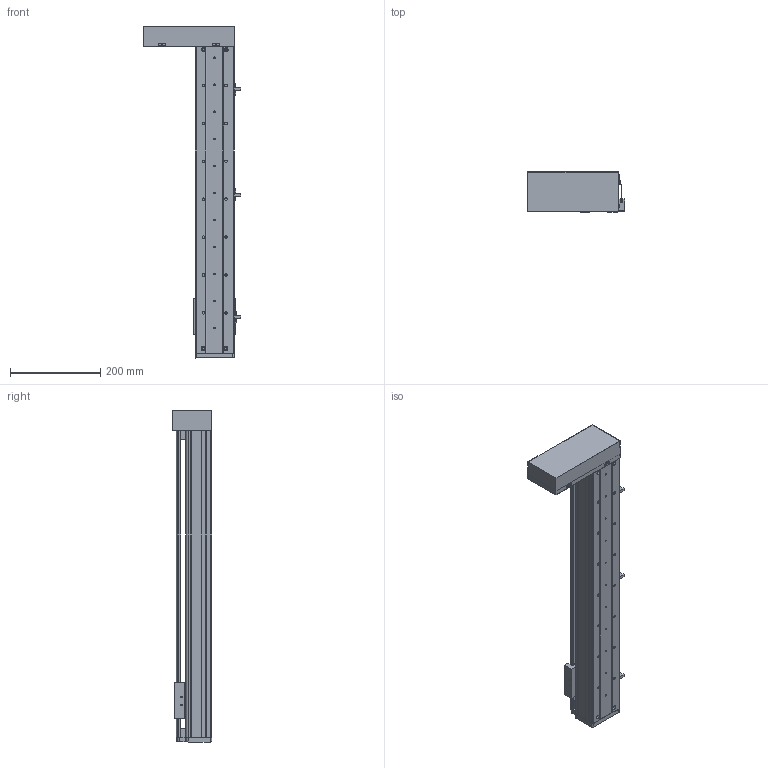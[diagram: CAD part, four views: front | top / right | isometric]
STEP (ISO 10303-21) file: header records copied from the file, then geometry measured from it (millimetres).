
FILE_DESCRIPTION (( 'STEP AP214' ), '1' );
FILE_NAME ('CF86-C-500-FWL.STEP', '2020-01-15T08:30:38', ( '微软用户' ), ( '微软中国' ), 'SwSTEP 2.0', 'SolidWorks 2016', '' );
FILE_SCHEMA (( 'AUTOMOTIVE_DESIGN' ));
Length unit declared in the file: millimetre
Products named in the file (13): CF86左折弯电机安装板; CF86賑輸; 02 86盓傅釱; 01 86嘐隅釱; EGW15CA賑輸; EGR15-500; 86臏倰第-500; 86裔啣-500; 86耜啣; CF86-C-500-FWL; 嫖萇羲壽; 75-86-95癹弇羲壽覜茼え; CF86肮祭湍欶酘殏
Assembly tree (14 placements, depth 2):
  CF86-C-500-FWL
    86耜啣
    86裔啣-500
    86臏倰第-500
    EGR15-500
    EGW15CA賑輸
    01 86嘐隅釱
    02 86盓傅釱
    CF86賑輸
    CF86左折弯电机安装板
    CF86肮祭湍欶酘殏
    75-86-95癹弇羲壽覜茼え
    嫖萇羲壽  x3
Bounding box: 215.22 x 88 x 736 mm (x, y, z)
Volume: 1856838.6 mm3; surface area: 735925.1 mm2
Topology: 14 solids, 14 shells, 698 faces, 1901 edges, 1258 vertices
Faces by surface type: plane 369, cylinder 321, cone 8
Entity records: 22456 total; most frequent: CARTESIAN_POINT 3827, DIRECTION 3665, ORIENTED_EDGE 3498, EDGE_CURVE 1749, AXIS2_PLACEMENT_3D 1300, VERTEX_POINT 1162, VECTOR 1065, LINE 1065
